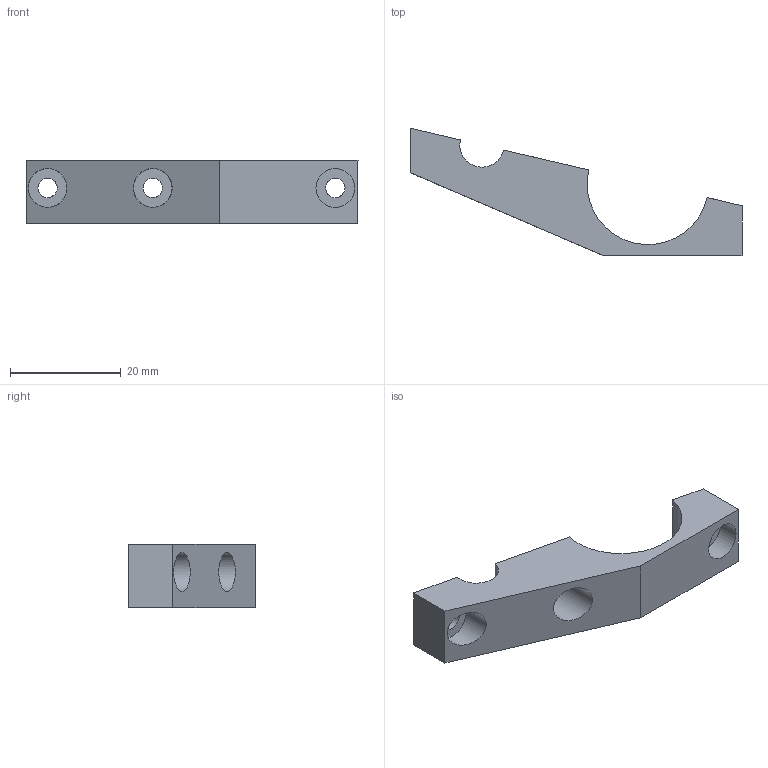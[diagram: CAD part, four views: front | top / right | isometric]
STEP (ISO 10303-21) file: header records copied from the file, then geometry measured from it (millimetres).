
FILE_DESCRIPTION(/* description */ (''),/* implementation_level */ '2;1');
FILE_NAME(/* name */ 'Z Back Center Lower Clamp v1.step',/* time_stamp */ '2023-03-23T06:42:34-06:00',/* author */ (''),/* organization */ (''),/* preprocessor_version */ 'ST-DEVELOPER v19.2',/* originating_system */ 'Autodesk Translation Framework v11.17.0.187',/* authorisation */ '');
FILE_SCHEMA (('AUTOMOTIVE_DESIGN { 1 0 10303 214 3 1 1 }'));
Length unit declared in the file: millimetre
Products named in the file (2): Z Back Center Lower Clamp; BC Bottom 2
Assembly tree (1 placements, depth 2):
  Z Back Center Lower Clamp
    BC Bottom 2
Bounding box: 60 x 23.03 x 11.5 mm (x, y, z)
Volume: 4850.3 mm3; surface area: 3233.8 mm2
Topology: 1 solids, 1 shells, 20 faces, 45 edges, 30 vertices
Faces by surface type: plane 12, cylinder 8
Full cylindrical faces by diameter (mm): 3.5 x3, 7 x3
Entity records: 637 total; most frequent: DIRECTION 107, CARTESIAN_POINT 98, ORIENTED_EDGE 90, EDGE_CURVE 45, AXIS2_PLACEMENT_3D 39, VERTEX_POINT 30, LINE 29, VECTOR 29
